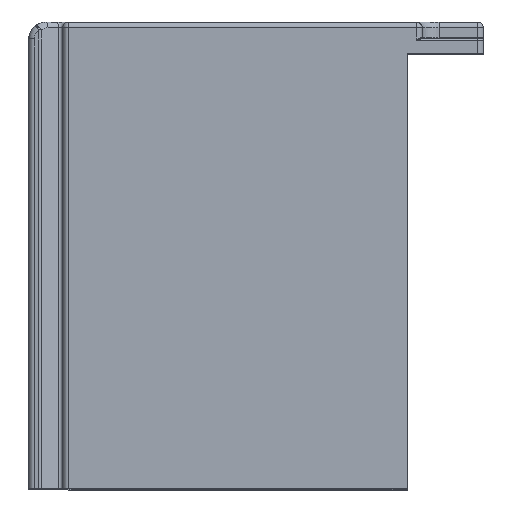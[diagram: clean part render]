
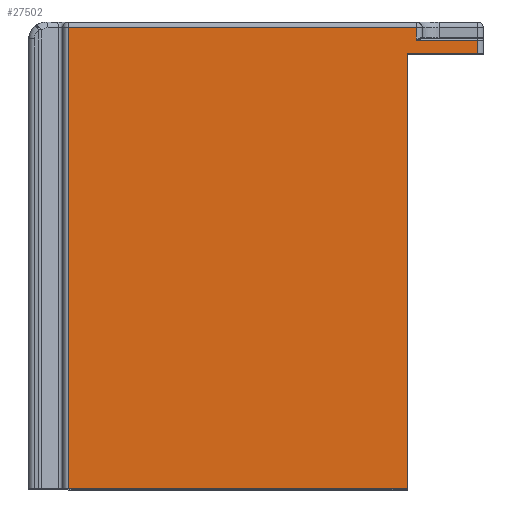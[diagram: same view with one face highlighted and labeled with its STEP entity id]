
A CAD part, top view. The second image highlights one B-rep face of the part: STEP entity #27502.
In plain terms, the highlighted planar face has unit normal (0, 0, 1).
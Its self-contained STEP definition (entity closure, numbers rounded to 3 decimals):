
#186=DIRECTION('',(1.,0.,0.));
#187=VECTOR('',#186,12.4);
#188=CARTESIAN_POINT('',(-78.1,27.,52.5));
#189=LINE('',#188,#187);
#485=DIRECTION('',(0.,1.,0.));
#486=VECTOR('',#485,2.2);
#487=CARTESIAN_POINT('',(-76.5,29.3,52.5));
#488=LINE('',#487,#486);
#515=CARTESIAN_POINT('',(-76.5,29.3,52.5));
#6139=DIRECTION('',(0.,1.,0.));
#6140=VECTOR('',#6139,77.);
#6141=CARTESIAN_POINT('',(-78.1,-50.,52.5));
#6142=LINE('',#6141,#6140);
#6143=DIRECTION('',(-1.,0.,0.));
#6144=VECTOR('',#6143,59.9);
#6145=CARTESIAN_POINT('',(-78.1,-50.,52.5));
#6146=LINE('',#6145,#6144);
#6147=DIRECTION('',(0.,-1.,0.));
#6148=VECTOR('',#6147,81.5);
#6149=CARTESIAN_POINT('',(-138.,31.5,52.5));
#6150=LINE('',#6149,#6148);
#6151=DIRECTION('',(-1.,0.,0.));
#6152=VECTOR('',#6151,61.5);
#6153=CARTESIAN_POINT('',(-76.5,31.5,52.5));
#6154=LINE('',#6153,#6152);
#6155=DIRECTION('',(1.,0.,0.));
#6156=VECTOR('',#6155,10.8);
#6157=CARTESIAN_POINT('',(-76.5,29.3,52.5));
#6158=LINE('',#6157,#6156);
#6159=DIRECTION('',(0.,1.,0.));
#6160=VECTOR('',#6159,2.3);
#6161=CARTESIAN_POINT('',(-65.7,27.,52.5));
#6162=LINE('',#6161,#6160);
#18871=VERTEX_POINT('',#515);
#19009=CARTESIAN_POINT('',(-138.,-50.,52.5));
#19011=VERTEX_POINT('',#19009);
#19085=CARTESIAN_POINT('',(-138.,31.5,52.5));
#19086=VERTEX_POINT('',#19085);
#19095=CARTESIAN_POINT('',(-76.5,31.5,52.5));
#19096=VERTEX_POINT('',#19095);
#19298=CARTESIAN_POINT('',(-65.7,27.,52.5));
#19300=VERTEX_POINT('',#19298);
#19321=CARTESIAN_POINT('',(-65.7,29.3,52.5));
#19322=VERTEX_POINT('',#19321);
#22884=CARTESIAN_POINT('',(-78.1,-50.,52.5));
#22885=CARTESIAN_POINT('',(-78.1,27.,52.5));
#22886=VERTEX_POINT('',#22884);
#22887=VERTEX_POINT('',#22885);
#27484=CARTESIAN_POINT('',(0.,0.,52.5));
#27485=DIRECTION('',(0.,0.,1.));
#27486=DIRECTION('',(1.,0.,0.));
#27487=AXIS2_PLACEMENT_3D('',#27484,#27485,#27486);
#27488=PLANE('',#27487);
#27489=ORIENTED_EDGE('',*,*,#23099,.F.);
#27490=ORIENTED_EDGE('',*,*,#27472,.F.);
#27491=ORIENTED_EDGE('',*,*,#27053,.T.);
#27493=ORIENTED_EDGE('',*,*,#27492,.F.);
#27495=ORIENTED_EDGE('',*,*,#27494,.F.);
#27496=ORIENTED_EDGE('',*,*,#23378,.F.);
#27497=ORIENTED_EDGE('',*,*,#23472,.T.);
#27499=ORIENTED_EDGE('',*,*,#27498,.F.);
#27500=EDGE_LOOP('',(#27489,#27490,#27491,#27493,#27495,#27496,#27497,#27499));
#27501=FACE_OUTER_BOUND('',#27500,.F.);
#27502=ADVANCED_FACE('',(#27501),#27488,.T.);
#23099=EDGE_CURVE('',#22887,#19300,#189,.T.);
#23378=EDGE_CURVE('',#18871,#19096,#488,.T.);
#23472=EDGE_CURVE('',#18871,#19322,#6158,.T.);
#27053=EDGE_CURVE('',#22886,#19011,#6146,.T.);
#27472=EDGE_CURVE('',#22886,#22887,#6142,.T.);
#27492=EDGE_CURVE('',#19086,#19011,#6150,.T.);
#27494=EDGE_CURVE('',#19096,#19086,#6154,.T.);
#27498=EDGE_CURVE('',#19300,#19322,#6162,.T.);
